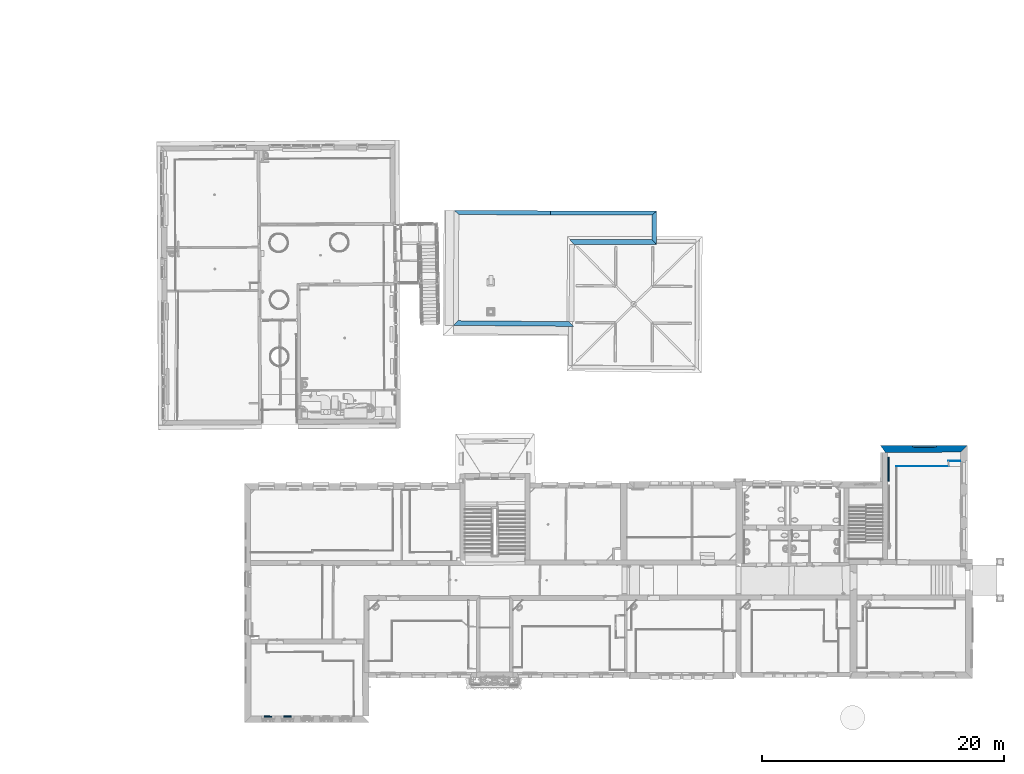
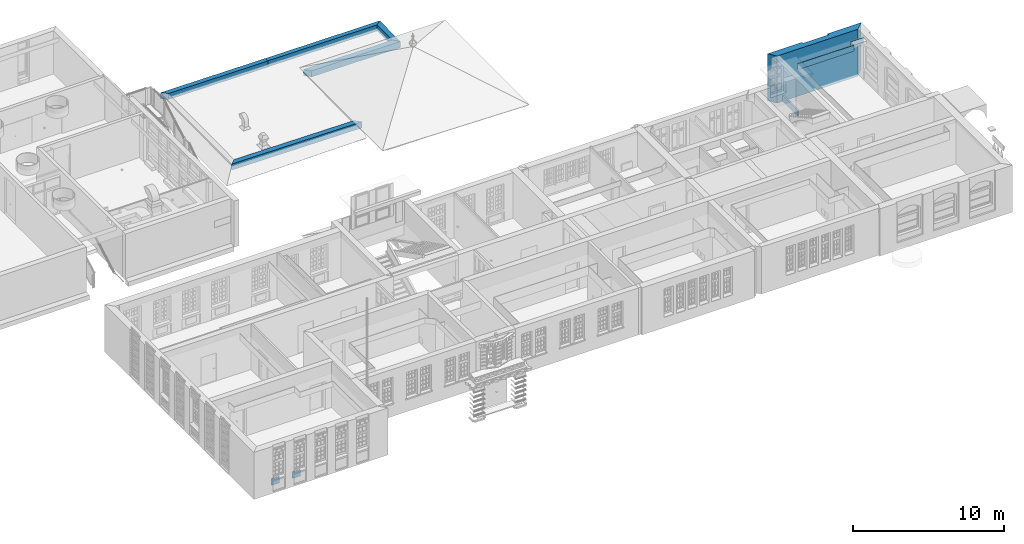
# One storey, part 47 of 158: 11 walls, 2 openings.
"""IFC2X3 building model written with IfcOpenShell, lengths in metres."""

from ifc_helpers import new_model, entity, si_unit, converted_unit, derived_unit, money_unit, direction, frame, origin_with_axes, place, context, subcontext, project, spatial, polyline, outline, extrude, material, layer, layer_set, layer_usage, type_object, element, save


model = new_model("IFC2X3")

# Units and contexts
model_context = context("Model", 3, precision=1e-05, world=origin_with_axes(), true_north=direction((0.0, 1.0)))
body_context = subcontext(model_context, "Body", "Model", "MODEL_VIEW")
ifc_project = project(units=[si_unit("LENGTHUNIT", "METRE"), si_unit("AREAUNIT", "SQUARE_METRE"), si_unit("VOLUMEUNIT", "CUBIC_METRE"), converted_unit("PLANEANGLEUNIT", "DEGREE", entity("IfcPlaneAngleMeasure", 0.0174532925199), si_unit("PLANEANGLEUNIT", "RADIAN"), dimensions=[0, 0, 0, 0, 0, 0, 0]), money_unit("EUR"), converted_unit("TIMEUNIT", "Year", entity("IfcTimeMeasure", 31556926.0), si_unit("TIMEUNIT", "SECOND"), dimensions=[0, 0, 1, 0, 0, 0, 0]), si_unit("MASSUNIT", "GRAM", prefix="KILO"), si_unit("THERMODYNAMICTEMPERATUREUNIT", "DEGREE_CELSIUS"), si_unit("LUMINOUSINTENSITYUNIT", "LUMEN"), si_unit("ENERGYUNIT", "JOULE", prefix="MEGA"), derived_unit("THERMALCONDUCTANCEUNIT", [(si_unit("POWERUNIT", "WATT"), 1), (si_unit("LENGTHUNIT", "METRE"), -1), (si_unit("THERMODYNAMICTEMPERATUREUNIT", "KELVIN"), -1)]), derived_unit("SPECIFICHEATCAPACITYUNIT", [(si_unit("ENERGYUNIT", "JOULE"), 1), (si_unit("MASSUNIT", "GRAM", prefix="KILO"), -1), (si_unit("THERMODYNAMICTEMPERATUREUNIT", "KELVIN"), -1)]), derived_unit("MASSDENSITYUNIT", [(si_unit("MASSUNIT", "GRAM", prefix="KILO"), 1), (si_unit("VOLUMEUNIT", "CUBIC_METRE"), -1)])], contexts=[model_context])

# Site, building, storey
site_placement = place(None, origin_with_axes())
site = spatial("IfcSite", under=ifc_project, at=site_placement, Name="Gelände", CompositionType="ELEMENT")
building_placement = place(site_placement, origin_with_axes())
building = spatial("IfcBuilding", under=site, at=building_placement, Name="Gebäude", CompositionType="ELEMENT")
storey_placement = place(building_placement, origin_with_axes())
storey = spatial("IfcBuildingStorey", under=building, at=storey_placement, Name="ERDGESCHOSS", CompositionType="ELEMENT", Elevation=0.0)

# Walls
ifc_material_1 = material(Name="05_ALLGEMEIN - TRAGENDE BAUTEILE")
ifc_layer_1 = layer(ifc_material_1, 0.35, ventilated="UNKNOWN")
ifc_layer_set_1 = layer_set([ifc_layer_1], Name="05_ALLGEMEIN - TRAGENDE BAUTEILE 0.35")
ifc_layer_usage_1 = layer_usage(ifc_layer_set_1, "AXIS2", "POSITIVE", 0.0)
wall_type_1 = type_object("IfcWallType", Name="05_ALLGEMEIN - TRAGENDE BAUTEILE 350", PredefinedType="ELEMENTEDWALL")
wall_1_placement = place(storey_placement, frame((-2.7496569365, 48.5582685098, 0.5), z_axis=(0.0, 0.0, 1.0), x_axis=(-0.999983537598, 0.00573799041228, 0.0)))
element("IfcWallStandardCase", 1, at=wall_1_placement, inside=storey, type_object=wall_type_1, material=ifc_layer_usage_1, Name="Wand-031", ObjectType="ELEMENTEDWALL", context=body_context, shape_type="SweptSolid", body=[
    extrude(outline(polyline([(0.0, 0.0), (7.99394082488, 0.0), (7.59389064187, 0.35), (0.0, 0.35), (0.0, 0.0)])), origin_with_axes(), (0.0, 0.0, 1.0), 0.496227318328),
])
ifc_material_2 = material(Name="43_Gipskarton")
ifc_layer_2 = layer(ifc_material_2, 0.03, ventilated="UNKNOWN")
ifc_layer_set_2 = layer_set([ifc_layer_2], Name="43_Gipskarton 0.03")
ifc_layer_usage_2 = layer_usage(ifc_layer_set_2, "AXIS2", "NEGATIVE", 0.03)
wall_type_2 = type_object("IfcWallType", Name="43_Gipskarton 30", PredefinedType="ELEMENTEDWALL")
wall_2_placement = place(storey_placement, frame((25.8306078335, 27.4395429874, 2.88), z_axis=(0.0, 0.0, 1.0), x_axis=(0.999999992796, 0.000120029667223, 0.0)))
element("IfcWallStandardCase", 2, at=wall_2_placement, inside=storey, type_object=wall_type_2, material=ifc_layer_usage_2, Name="Wand-046", ObjectType="ELEMENTEDWALL", context=body_context, shape_type="SweptSolid", body=[
    extrude(outline(polyline([(0.0, 0.0), (4.29439251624, 0.0), (4.26509022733, 0.03), (-0.0300751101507, 0.03), (0.0, 0.0)])), origin_with_axes(), (0.0, 0.0, 1.0), 0.48),
])
ifc_layer_usage_3 = layer_usage(ifc_layer_set_2, "AXIS2", "NEGATIVE", 0.03)
wall_3_placement = place(storey_placement, frame((30.1350483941, 27.8692098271, 2.88), z_axis=(0.0, 0.0, 1.0), x_axis=(0.999994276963, -0.00338319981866, 0.0)))
element("IfcWallStandardCase", 3, at=wall_3_placement, inside=storey, type_object=wall_type_2, material=ifc_layer_usage_3, Name="Wand-048", ObjectType="ELEMENTEDWALL", context=body_context, shape_type="SweptSolid", body=[
    extrude(outline(polyline([(0.0, 0.0), (0.959338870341, 0.0), (0.959227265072, 0.03), (-0.0294051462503, 0.03), (0.0, 0.0)])), origin_with_axes(), (0.0, 0.0, 1.0), 0.48),
])
ifc_material_3 = material(Name="01_ALLGEMEIN - BAUTEIL")
ifc_layer_3 = layer(ifc_material_3, 0.105, ventilated="UNKNOWN")
ifc_layer_set_3 = layer_set([ifc_layer_3], Name="01_ALLGEMEIN - BAUTEIL 0.105")
ifc_layer_usage_4 = layer_usage(ifc_layer_set_3, "AXIS2", "NEGATIVE", 0.0)
wall_type_3 = type_object("IfcWallType", Name="01_ALLGEMEIN - BAUTEIL 105", PredefinedType="ELEMENTEDWALL")
wall_4_placement = place(storey_placement, frame((25.2083497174, 28.2081967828, 0.0935706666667), z_axis=(0.0, 0.0, 1.0), x_axis=(0.00077873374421, -0.999999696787, 0.0)))
element("IfcWallStandardCase", 4, at=wall_4_placement, inside=storey, type_object=wall_type_3, material=ifc_layer_usage_4, Name="Wand-040", ObjectType="ELEMENTEDWALL", context=body_context, shape_type="SweptSolid", body=[
    extrude(outline(polyline([(0.0, -0.105), (1.97908050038, -0.105), (1.97908050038, 0.0), (0.0, 0.0), (0.0, -0.105)])), origin_with_axes(), (0.0, 0.0, 1.0), 0.501014),
])
ifc_layer_usage_5 = layer_usage(ifc_layer_set_3, "AXIS2", "NEGATIVE", 0.105)
wall_5_placement = place(storey_placement, frame((-25.8129112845, 6.80853742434, 0.0935706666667), z_axis=(0.0, 0.0, 1.0), x_axis=(-0.999924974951, 0.012249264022, 0.0)))
element("IfcWallStandardCase", 5, at=wall_5_placement, inside=storey, type_object=wall_type_3, material=ifc_layer_usage_5, Name="Wand-041", ObjectType="ELEMENTEDWALL", context=body_context, shape_type="SweptSolid", body=[
    extrude(outline(polyline([(0.0, 0.0), (0.597040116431, 0.0), (0.597040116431, 0.105), (0.0, 0.105), (0.0, 0.0)])), origin_with_axes(), (0.0, 0.0, 1.0), 0.501014),
])
ifc_layer_usage_6 = layer_usage(ifc_layer_set_3, "AXIS2", "NEGATIVE", 0.105)
wall_6_placement = place(storey_placement, frame((-24.2129956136, 6.81137249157, 0.0935706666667), z_axis=(0.0, 0.0, 1.0), x_axis=(-0.999924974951, 0.012249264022, 0.0)))
element("IfcWallStandardCase", 6, at=wall_6_placement, inside=storey, type_object=wall_type_3, material=ifc_layer_usage_6, Name="Wand-041", ObjectType="ELEMENTEDWALL", context=body_context, shape_type="SweptSolid", body=[
    extrude(outline(polyline([(0.0, 0.0), (0.597040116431, 0.0), (0.597040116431, 0.105), (0.0, 0.105), (0.0, 0.0)])), origin_with_axes(), (0.0, 0.0, 1.0), 0.501014),
])

# Wall, openings
ifc_layer_4 = layer(ifc_material_1, 0.56, ventilated="UNKNOWN")
ifc_layer_set_4 = layer_set([ifc_layer_4], Name="05_ALLGEMEIN - TRAGENDE BAUTEILE 0.56")
ifc_layer_usage_7 = layer_usage(ifc_layer_set_4, "AXIS2", "NEGATIVE", 0.56)
wall_type_4 = type_object("IfcWallType", Name="05_ALLGEMEIN - TRAGENDE BAUTEILE 560", PredefinedType="ELEMENTEDWALL")
wall_7_placement = place(storey_placement, frame((31.6739429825, 29.1682988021, -0.210000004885), z_axis=(0.0, 0.0, 1.0), x_axis=(-0.999999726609, -0.000739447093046, 0.0)))
wall_7 = element("IfcWallStandardCase", 7, at=wall_7_placement, inside=storey, type_object=wall_type_4, material=ifc_layer_usage_7, Name="Wand-030", ObjectType="ELEMENTEDWALL", context=body_context, shape_type="SweptSolid", body=[
    extrude(outline(polyline([(0.0, 0.0), (7.17404164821, 0.0), (6.77852920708, 0.56), (0.580225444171, 0.56), (0.0, 0.0)])), origin_with_axes(), (0.0, 0.0, 1.0), 3.81000000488),
])
opening_1_placement = place(wall_7_placement, frame((3.54982631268, 0.0, 0.902707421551), z_axis=(0.0, 0.0, 1.0), x_axis=(1.0, 0.0, 0.0)))
element("IfcOpeningElement", 8, at=opening_1_placement, cuts=wall_7, Name="Fenster-015", ObjectType="Recess", context=body_context, shape_type="SweptSolid", body=[
    extrude(outline(polyline([(-0.989000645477, 0.0), (-0.989000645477, -5.63299996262), (-0.826756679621, -5.78570380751), (-0.64128743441, -5.90916520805), (-0.437803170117, -5.99991587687), (-0.222020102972, -6.0554065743), (-1.98459534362e-08, -6.07407825), (0.22202006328, -6.0554065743), (0.437803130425, -5.99991587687), (0.641287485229, -5.90916520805), (0.82675673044, -5.78570380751), (0.989000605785, -5.63299996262), (0.989001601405, -5.63290003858), (0.989000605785, 0.0), (-0.989000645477, 0.0)])), frame((0.0, 0.137560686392, 0.0), z_axis=(0.0, 1.0, 0.0), x_axis=(1.0, 0.0, 0.0)), (0.0, 0.0, -1.0), 0.697560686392),
])
opening_2_placement = place(wall_7_placement, frame((3.56512487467, 0.0, 1.03753167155), z_axis=(0.0, 0.0, 1.0), x_axis=(1.0, 0.0, 0.0)))
element("IfcOpeningElement", 9, at=opening_2_placement, cuts=wall_7, Name="Fenster-015", ObjectType="Recess", context=body_context, shape_type="SweptSolid", body=[
    extrude(outline(polyline([(-0.855, 0.0), (-0.855, -1.79999999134), (-0.668069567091, -1.94104381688), (-0.458417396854, -2.04536211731), (-0.233173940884, -2.10940694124), (-1.28448134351e-08, -2.131), (0.233173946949, -2.10940694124), (0.458417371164, -2.04536211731), (0.668069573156, -1.94104381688), (0.855000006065, -1.79999999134), (0.855000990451, -1.79989999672), (0.855000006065, 0.0), (-0.855, 0.0)])), frame((0.0, 0.15, 0.0), z_axis=(0.0, 1.0, 0.0), x_axis=(1.0, 0.0, 0.0)), (0.0, 0.0, -1.0), 0.71),
])

# Walls
ifc_layer_5 = layer(ifc_material_1, 0.418, ventilated="UNKNOWN")
ifc_layer_set_5 = layer_set([ifc_layer_5], Name="05_ALLGEMEIN - TRAGENDE BAUTEILE 0.418")
ifc_layer_usage_8 = layer_usage(ifc_layer_set_5, "AXIS2", "NEGATIVE", 0.0)
wall_type_5 = type_object("IfcWallType", Name="05_ALLGEMEIN - TRAGENDE BAUTEILE 418", PredefinedType="ELEMENTEDWALL")
wall_8_placement = place(storey_placement, frame((5.9859535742, 45.7739115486, 0.5), z_axis=(0.0, 0.0, 1.0), x_axis=(-0.999999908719, -0.000427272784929, 0.0)))
element("IfcWallStandardCase", 10, at=wall_8_placement, inside=storey, type_object=wall_type_5, material=ifc_layer_usage_8, Name="Wand-030", ObjectType="ELEMENTEDWALL", context=body_context, shape_type="SweptSolid", body=[
    extrude(outline(polyline([(0.388079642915, -0.418), (7.17943537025, -0.418), (6.79205226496, 0.0), (0.0, 0.0), (0.388079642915, -0.418)])), origin_with_axes(), (0.0, 0.0, 1.0), 0.496227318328),
])
ifc_layer_6 = layer(ifc_material_1, 0.33, ventilated="UNKNOWN")
ifc_layer_set_6 = layer_set([ifc_layer_6], Name="05_ALLGEMEIN - TRAGENDE BAUTEILE 0.33")
ifc_layer_usage_9 = layer_usage(ifc_layer_set_6, "AXIS2", "POSITIVE", 0.0)
wall_type_6 = type_object("IfcWallType", Name="05_ALLGEMEIN - TRAGENDE BAUTEILE 330", PredefinedType="ELEMENTEDWALL")
wall_9_placement = place(storey_placement, frame((5.99747569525, 48.5325359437, 0.5), z_axis=(0.0, 0.0, 1.0), x_axis=(-0.999996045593, 0.00281225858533, 0.0)))
element("IfcWallStandardCase", 11, at=wall_9_placement, inside=storey, type_object=wall_type_6, material=ifc_layer_usage_9, Name="Wand-030", ObjectType="ELEMENTEDWALL", context=body_context, shape_type="SweptSolid", body=[
    extrude(outline(polyline([(0.0, 0.0), (8.74832910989, 0.0), (8.74832910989, 0.33), (0.390450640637, 0.33), (0.0, 0.0)])), origin_with_axes(), (0.0, 0.0, 1.0), 0.496227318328),
])
ifc_layer_7 = layer(ifc_material_1, 0.39, ventilated="UNKNOWN")
ifc_layer_set_7 = layer_set([ifc_layer_7], Name="05_ALLGEMEIN - TRAGENDE BAUTEILE 0.39")
ifc_layer_usage_10 = layer_usage(ifc_layer_set_7, "AXIS2", "NEGATIVE", 0.39)
wall_type_7 = type_object("IfcWallType", Name="05_ALLGEMEIN - TRAGENDE BAUTEILE 390", PredefinedType="ELEMENTEDWALL")
wall_10_placement = place(storey_placement, frame((5.9859535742, 45.7739115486, 0.5), z_axis=(0.0, 0.0, 1.0), x_axis=(0.00417672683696, 0.999991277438, 0.0)))
element("IfcWallStandardCase", 12, at=wall_10_placement, inside=storey, type_object=wall_type_7, material=ifc_layer_usage_10, Name="Wand-030", ObjectType="ELEMENTEDWALL", context=body_context, shape_type="SweptSolid", body=[
    extrude(outline(polyline([(0.0, 0.0), (2.75864845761, 0.0), (2.42811600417, 0.39), (0.416208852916, 0.39), (0.0, 0.0)])), origin_with_axes(), (0.0, 0.0, 1.0), 0.496227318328),
])
ifc_layer_usage_11 = layer_usage(ifc_layer_set_7, "AXIS2", "NEGATIVE", 0.39)
wall_11_placement = place(storey_placement, frame((-10.7966993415, 39.0892279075, 0.5), z_axis=(0.0, 0.0, 1.0), x_axis=(0.99996602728, -0.0082428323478, 0.0)))
element("IfcWallStandardCase", 13, at=wall_11_placement, inside=storey, type_object=wall_type_7, material=ifc_layer_usage_11, Name="Wand-031", ObjectType="ELEMENTEDWALL", context=body_context, shape_type="SweptSolid", body=[
    extrude(outline(polyline([(0.0, 0.0), (9.95136012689, 0.0), (9.56042637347, 0.39), (0.398968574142, 0.39), (0.0, 0.0)])), origin_with_axes(), (0.0, 0.0, 1.0), 0.496227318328),
])

save(model, "model.ifc")
